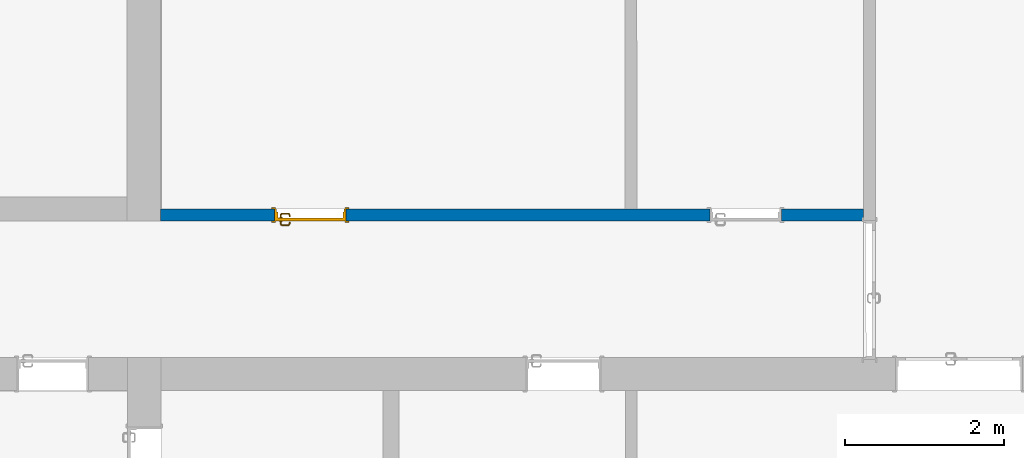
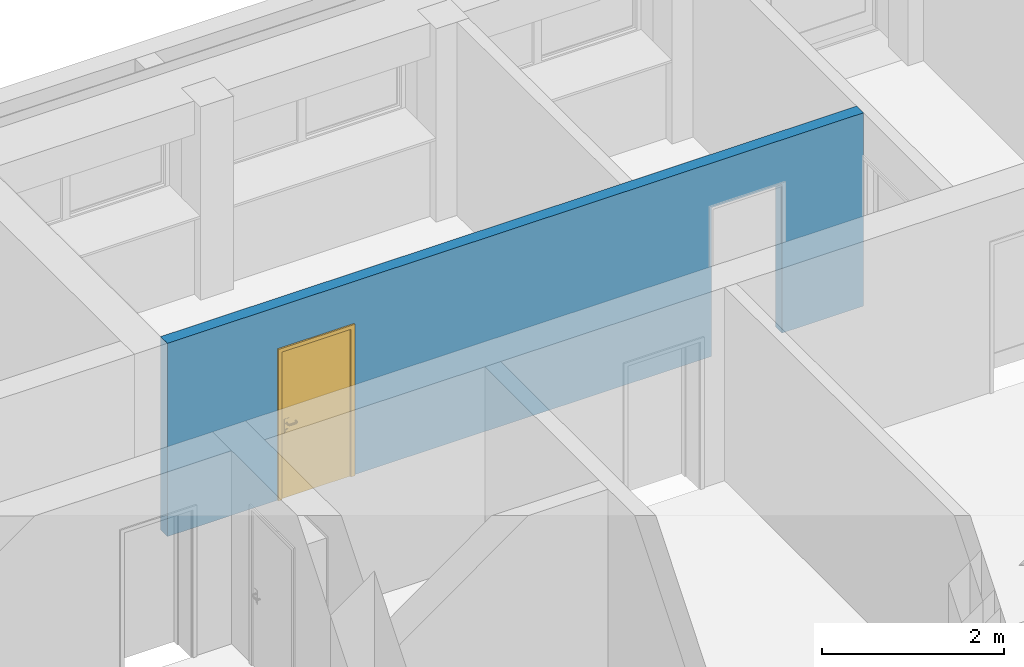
# One storey, part 19 of 127: 1 door, 1 wall, 2 openings.
"""IFC2X3 building model written with IfcOpenShell, lengths in millimetres."""

from ifc_helpers import new_model, entity, si_unit, converted_unit, derived_unit, money_unit, direction, frame, origin_with_axes, origin_2d_with_axis, place, context, subcontext, project, spatial, polyline, rectangle, outline, extrude, open_shell, faceted_brep, surface_model, source, transform, mapped, material, layer, layer_set, layer_usage, type_object, element, fill, save


model = new_model("IFC2X3")

# Units and contexts
model_context = context("Model", 3, precision=1e-05, world=origin_with_axes(), true_north=direction((0.0, 1.0)))
body_context = subcontext(model_context, "Body", "Model", "MODEL_VIEW")
ifc_project = project(units=[si_unit("LENGTHUNIT", "METRE", prefix="MILLI"), si_unit("AREAUNIT", "SQUARE_METRE"), si_unit("VOLUMEUNIT", "CUBIC_METRE"), converted_unit("PLANEANGLEUNIT", "DEGREE", entity("IfcPlaneAngleMeasure", 0.0174532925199), si_unit("PLANEANGLEUNIT", "RADIAN"), dimensions=[0, 0, 0, 0, 0, 0, 0]), si_unit("SOLIDANGLEUNIT", "STERADIAN"), money_unit("EUR"), converted_unit("TIMEUNIT", "Year", entity("IfcTimeMeasure", 31556926.0), si_unit("TIMEUNIT", "SECOND"), dimensions=[0, 0, 1, 0, 0, 0, 0]), si_unit("MASSUNIT", "GRAM", prefix="KILO"), si_unit("THERMODYNAMICTEMPERATUREUNIT", "DEGREE_CELSIUS"), si_unit("LUMINOUSINTENSITYUNIT", "LUMEN"), si_unit("ENERGYUNIT", "JOULE", prefix="MEGA"), derived_unit("THERMALCONDUCTANCEUNIT", [(si_unit("POWERUNIT", "WATT"), 1), (si_unit("LENGTHUNIT", "METRE"), -1), (si_unit("THERMODYNAMICTEMPERATUREUNIT", "KELVIN"), -1)]), derived_unit("SPECIFICHEATCAPACITYUNIT", [(si_unit("ENERGYUNIT", "JOULE"), 1), (si_unit("MASSUNIT", "GRAM", prefix="KILO"), -1), (si_unit("THERMODYNAMICTEMPERATUREUNIT", "KELVIN"), -1)]), derived_unit("MASSDENSITYUNIT", [(si_unit("MASSUNIT", "GRAM", prefix="KILO"), 1), (si_unit("VOLUMEUNIT", "CUBIC_METRE"), -1)])], contexts=[model_context])

# Site, building, storey
site_placement = place(None, origin_with_axes())
site = spatial("IfcSite", under=ifc_project, at=site_placement, Name="Site", CompositionType="ELEMENT")
building_placement = place(site_placement, origin_with_axes())
building = spatial("IfcBuilding", under=site, at=building_placement, Name="Building", CompositionType="ELEMENT")
storey_placement = place(building_placement, origin_with_axes())
storey = spatial("IfcBuildingStorey", under=building, at=storey_placement, Name="1 KORRUS", CompositionType="ELEMENT", Elevation=0.0)

# Wall, openings, door
ifc_material = material(Name="Kivi -Ol.Olev Konstruktsioon")
ifc_layer = layer(ifc_material, 150.0, ventilated="UNKNOWN")
ifc_layer_set = layer_set([ifc_layer], Name="ol.olev ss 150")
ifc_layer_usage = layer_usage(ifc_layer_set, "AXIS2", "POSITIVE", 0.0)
wall_type = type_object("IfcWallType", Name="SW - 036", PredefinedType="NOTDEFINED")
wall_placement = place(storey_placement, frame((87732.1709145, 42721.226444, 0.0), z_axis=(0.0, 0.0, 1.0), x_axis=(1.0, 0.0, 0.0)))
wall = element("IfcWallStandardCase", 1, at=wall_placement, inside=storey, type_object=wall_type, material=ifc_layer_usage, Name="ol.olev ss 150", context=body_context, shape_type="SweptSolid", body=[
    extrude(outline(polyline([(420.000265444, 0.0), (9275.21438642, 0.0), (9275.21438642, 150.0), (419.817612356, 150.0), (420.000265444, 0.0)])), origin_with_axes(), (0.0, 0.0, 1.0), 2600.0),
])
opening_1_placement = place(wall_placement, frame((2306.77435654, 0.0, 0.0), z_axis=(0.0, 0.0, 1.0), x_axis=(1.0, 0.0, 0.0)))
opening_1 = element("IfcOpeningElement", 2, at=opening_1_placement, cuts=wall, Name="Siseuks * Door 22", context=body_context, shape_type="SweptSolid", body=[
    extrude(rectangle(XDim=900.0, YDim=2000.0, at=origin_2d_with_axis()), frame((0.0, 150.0, 1000.0), z_axis=(0.0, 1.0, 0.0), x_axis=(1.0, 0.0, 0.0)), (0.0, 0.0, -1.0), 450.0),
    extrude(rectangle(XDim=974.0, YDim=2037.0, at=origin_2d_with_axis()), frame((0.0, 150.0, 1018.5), z_axis=(0.0, 1.0, 0.0), x_axis=(1.0, 0.0, 0.0)), (0.0, 0.0, 1.0), 150.0),
    extrude(rectangle(XDim=974.0, YDim=2037.0, at=origin_2d_with_axis()), frame((0.0, 0.0, 1018.5), z_axis=(0.0, -1.0, 0.0), x_axis=(1.0, 0.0, 0.0)), (0.0, 0.0, 1.0), 150.0),
])
opening_2_placement = place(wall_placement, frame((7790.00338246, 0.0, 0.0), z_axis=(0.0, 0.0, 1.0), x_axis=(1.0, 0.0, 0.0)))
element("IfcOpeningElement", 3, at=opening_2_placement, cuts=wall, Name="Siseuks * Door 22", context=body_context, shape_type="SweptSolid", body=[
    extrude(rectangle(XDim=900.0, YDim=2000.0, at=origin_2d_with_axis()), frame((0.0, 150.0, 1000.0), z_axis=(0.0, 1.0, 0.0), x_axis=(1.0, 0.0, 0.0)), (0.0, 0.0, -1.0), 450.0),
    extrude(rectangle(XDim=974.0, YDim=2037.0, at=origin_2d_with_axis()), frame((0.0, 150.0, 1018.5), z_axis=(0.0, 1.0, 0.0), x_axis=(1.0, 0.0, 0.0)), (0.0, 0.0, 1.0), 150.0),
    extrude(rectangle(XDim=974.0, YDim=2037.0, at=origin_2d_with_axis()), frame((0.0, 0.0, 1018.5), z_axis=(0.0, -1.0, 0.0), x_axis=(1.0, 0.0, 0.0)), (0.0, 0.0, 1.0), 150.0),
])
door_style = type_object("IfcDoorStyle", Name="SU-B132   900×2\xa0000", ConstructionType="NOTDEFINED", OperationType="SINGLE_SWING_LEFT", ParameterTakesPrecedence=False, Sizeable=False)
shared_shape = source(origin_with_axes(), body_context, "Body", "SurfaceModel", [
    faceted_brep([(450.0, -115.0, 0.0), (450.0, -150.0, 0.0), (425.0, -150.0, 0.0), (425.0, -115.0, 0.0), (450.0, -115.0, 2000.0), (450.0, -150.0, 2000.0), (425.0, -150.0, 1975.0), (425.0, -115.0, 1975.0)], [[[0, 1, 2, 3]], [[4, 5, 1, 0]], [[1, 5, 6, 2]], [[3, 2, 6, 7]], [[0, 3, 7, 4]], [[7, 6, 5, 4]]]),
    faceted_brep([(-450.0, -115.0, 2000.0), (-450.0, -150.0, 2000.0), (-425.0, -150.0, 1975.0), (-425.0, -115.0, 1975.0), (-450.0, -115.0, 0.0), (-450.0, -150.0, 0.0), (-425.0, -150.0, 0.0), (-425.0, -115.0, 0.0)], [[[0, 1, 2, 3]], [[4, 5, 1, 0]], [[1, 5, 6, 2]], [[3, 2, 6, 7]], [[0, 3, 7, 4]], [[7, 6, 5, 4]]]),
    faceted_brep([(425.0, -115.0, 1975.0), (425.0, -150.0, 1975.0), (-425.0, -150.0, 1975.0), (-425.0, -115.0, 1975.0), (450.0, -115.0, 2000.0), (450.0, -150.0, 2000.0), (-450.0, -150.0, 2000.0), (-450.0, -115.0, 2000.0)], [[[0, 1, 2, 3]], [[4, 5, 1, 0]], [[1, 5, 6, 2]], [[3, 2, 6, 7]], [[0, 3, 7, 4]], [[7, 6, 5, 4]]]),
    faceted_brep([(487.0, -169.0, 0.0), (437.0, -169.0, 0.0), (437.0, -150.0, 0.0), (487.0, -150.0, 0.0), (487.0, -169.0, 2037.0), (437.0, -169.0, 1987.0), (437.0, -150.0, 1987.0), (487.0, -150.0, 2037.0)], [[[0, 1, 2, 3]], [[0, 4, 5, 1]], [[1, 5, 6, 2]], [[3, 2, 6, 7]], [[4, 0, 3, 7]], [[5, 4, 7, 6]]]),
    faceted_brep([(-487.0, -169.0, 2037.0), (-437.0, -169.0, 1987.0), (-437.0, -150.0, 1987.0), (-487.0, -150.0, 2037.0), (-487.0, -169.0, 0.0), (-437.0, -169.0, 0.0), (-437.0, -150.0, 0.0), (-487.0, -150.0, 0.0)], [[[0, 1, 2, 3]], [[0, 4, 5, 1]], [[1, 5, 6, 2]], [[3, 2, 6, 7]], [[4, 0, 3, 7]], [[5, 4, 7, 6]]]),
    faceted_brep([(487.0, -169.0, 2037.0), (437.0, -169.0, 1987.0), (437.0, -150.0, 1987.0), (487.0, -150.0, 2037.0), (-487.0, -169.0, 2037.0), (-437.0, -169.0, 1987.0), (-437.0, -150.0, 1987.0), (-487.0, -150.0, 2037.0)], [[[0, 1, 2, 3]], [[0, 4, 5, 1]], [[1, 5, 6, 2]], [[3, 2, 6, 7]], [[4, 0, 3, 7]], [[5, 4, 7, 6]]]),
    faceted_brep([(487.0, 19.0, 0.0), (487.0, 0.0, 0.0), (437.0, 0.0, 0.0), (437.0, 19.0, 0.0), (487.0, 19.0, 2037.0), (487.0, 0.0, 2037.0), (437.0, 0.0, 1987.0), (437.0, 19.0, 1987.0)], [[[0, 1, 2, 3]], [[4, 5, 1, 0]], [[1, 5, 6, 2]], [[3, 2, 6, 7]], [[0, 3, 7, 4]], [[7, 6, 5, 4]]]),
    faceted_brep([(-487.0, 19.0, 2037.0), (-487.0, 0.0, 2037.0), (-437.0, 0.0, 1987.0), (-437.0, 19.0, 1987.0), (-487.0, 19.0, 0.0), (-487.0, 0.0, 0.0), (-437.0, 0.0, 0.0), (-437.0, 19.0, 0.0)], [[[0, 1, 2, 3]], [[4, 5, 1, 0]], [[1, 5, 6, 2]], [[3, 2, 6, 7]], [[0, 3, 7, 4]], [[7, 6, 5, 4]]]),
    faceted_brep([(487.0, 19.0, 2037.0), (487.0, 0.0, 2037.0), (437.0, 0.0, 1987.0), (437.0, 19.0, 1987.0), (-487.0, 19.0, 2037.0), (-487.0, 0.0, 2037.0), (-437.0, 0.0, 1987.0), (-437.0, 19.0, 1987.0)], [[[0, 1, 2, 3]], [[4, 5, 1, 0]], [[1, 5, 6, 2]], [[3, 2, 6, 7]], [[0, 3, 7, 4]], [[7, 6, 5, 4]]]),
    faceted_brep([(410.0, -40.0, 0.0), (410.0, -115.0, 0.0), (410.0, -115.0, 1960.0), (410.0, -40.0, 1960.0), (422.0, -40.0, 0.0), (422.0, 0.0, 0.0), (450.0, 0.0, 0.0), (450.0, -115.0, 0.0), (450.0, -115.0, 1960.0), (422.0, -40.0, 1960.0), (450.0, 0.0, 1960.0), (422.0, 0.0, 1960.0)], [[[0, 1, 2, 3]], [[4, 5, 6, 7, 1, 0]], [[1, 7, 8, 2]], [[9, 3, 2, 8, 10, 11]], [[9, 4, 0, 3]], [[11, 5, 4, 9]], [[11, 10, 6, 5]], [[6, 10, 8, 7]]]),
    faceted_brep([(-422.0, -40.0, 1960.0), (-422.0, 0.0, 1960.0), (-450.0, 0.0, 1960.0), (-450.0, -115.0, 1960.0), (-410.0, -115.0, 1960.0), (-410.0, -40.0, 1960.0), (-422.0, -40.0, 0.0), (-422.0, 0.0, 0.0), (-450.0, 0.0, 0.0), (-450.0, -115.0, 0.0), (-410.0, -115.0, 0.0), (-410.0, -40.0, 0.0)], [[[0, 1, 2, 3, 4, 5]], [[0, 6, 7, 1]], [[7, 8, 2, 1]], [[2, 8, 9, 3]], [[3, 9, 10, 4]], [[5, 4, 10, 11]], [[5, 11, 6, 0]], [[6, 11, 10, 9, 8, 7]]]),
    faceted_brep([(422.0, 0.0, 1972.0), (-422.0, 0.0, 1972.0), (-422.0, 0.0, 1960.0), (-450.0, 0.0, 1960.0), (-450.0, 0.0, 2000.0), (450.0, 0.0, 2000.0), (450.0, 0.0, 1960.0), (422.0, 0.0, 1960.0), (422.0, -40.0, 1972.0), (-422.0, -40.0, 1972.0), (-422.0, -40.0, 1960.0), (-410.0, -40.0, 1960.0), (-410.0, -115.0, 1960.0), (-450.0, -115.0, 1960.0), (-450.0, -115.0, 2000.0), (450.0, -115.0, 2000.0), (450.0, -115.0, 1960.0), (422.0, -40.0, 1960.0), (410.0, -115.0, 1960.0), (410.0, -40.0, 1960.0)], [[[0, 1, 2, 3, 4, 5, 6, 7]], [[0, 8, 9, 1]], [[1, 9, 10, 2]], [[10, 11, 12, 13, 3, 2]], [[4, 3, 13, 14]], [[5, 4, 14, 15]], [[6, 5, 15, 16]], [[17, 7, 6, 16, 18, 19]], [[7, 17, 8, 0]], [[10, 9, 8, 17, 19, 11]], [[19, 18, 12, 11]], [[12, 18, 16, 15, 14, 13]]]),
    faceted_brep([(400.5, -40.0, 1060.0), (343.5, -40.0, 1060.0), (343.5, -43.0, 1060.0), (400.5, -43.0, 1060.0), (400.5, -40.0, 870.0), (343.5, -40.0, 870.0), (343.5, -43.0, 870.0), (400.5, -43.0, 870.0)], [[[0, 1, 2, 3]], [[0, 4, 5, 1]], [[1, 5, 6, 2]], [[3, 2, 6, 7]], [[4, 0, 3, 7]], [[5, 4, 7, 6]]]),
    surface_model("IfcShellBasedSurfaceModel", [(362.0, -53.0, 1000.0), (364.928932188, -53.0, 992.928932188), (364.928932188, -72.303560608, 992.928932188), (362.0, -72.0150859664, 1000.0), (372.0, -53.0, 990.0), (372.0, -73.0, 990.0), (363.816790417, -77.8946748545, 992.928932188), (361.057796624, -76.751862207, 1000.0), (364.928932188, -53.0, 1007.07106781), (364.928932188, -72.303560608, 1007.07106781), (379.071067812, -53.0, 992.928932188), (379.071067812, -73.696439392, 992.928932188), (370.47759065, -80.6536686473, 990.0), (361.044179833, -82.0441798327, 992.928932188), (358.932537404, -79.9325374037, 1000.0), (363.816790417, -77.8946748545, 1007.07106781), (372.0, -53.0, 1010.0), (372.0, -73.0, 1010.0), (382.0, -53.0, 1000.0), (382.0, -73.9849140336, 1000.0), (377.138390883, -83.4126624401, 992.928932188), (366.142135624, -87.1421356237, 990.0), (356.894674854, -84.8167904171, 992.928932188), (355.751862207, -82.0577966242, 1000.0), (361.044179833, -82.0441798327, 1007.07106781), (370.47759065, -80.6536686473, 1010.0), (379.071067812, -53.0, 1007.07106781), (379.071067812, -73.696439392, 1007.07106781), (379.897384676, -84.5554750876, 1000.0), (371.240091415, -92.2400914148, 992.928932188), (359.653668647, -91.4775906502, 990.0), (351.303560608, -85.9289321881, 992.928932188), (351.015085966, -83.0, 1000.0), (356.894674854, -84.8167904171, 1007.07106781), (366.142135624, -87.1421356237, 1010.0), (377.138390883, -83.4126624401, 1007.07106781), (373.351733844, -94.3517338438, 1000.0), (362.41266244, -98.1383908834, 992.928932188), (352.0, -93.0, 990.0), (282.696439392, -85.9289321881, 992.928932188), (282.984914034, -83.0, 1000.0), (351.303560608, -85.9289321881, 1007.07106781), (359.653668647, -91.4775906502, 1010.0), (371.240091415, -92.2400914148, 1007.07106781), (363.555475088, -100.897384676, 1000.0), (352.696439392, -100.071067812, 992.928932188), (282.0, -93.0, 990.0), (277.105325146, -84.8167904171, 992.928932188), (278.248137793, -82.0577966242, 1000.0), (282.696439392, -85.9289321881, 1007.07106781), (352.0, -93.0, 1010.0), (362.41266244, -98.1383908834, 1007.07106781), (352.984914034, -103.0, 1000.0), (281.303560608, -100.071067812, 992.928932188), (274.346331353, -91.4775906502, 990.0), (272.955820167, -82.0441798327, 992.928932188), (275.067462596, -79.9325374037, 1000.0), (277.105325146, -84.8167904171, 1007.07106781), (282.0, -93.0, 1010.0), (352.696439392, -100.071067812, 1007.07106781), (281.015085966, -103.0, 1000.0), (271.58733756, -98.1383908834, 992.928932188), (267.857864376, -87.1421356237, 990.0), (270.183209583, -77.8946748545, 992.928932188), (272.942203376, -76.751862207, 1000.0), (272.955820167, -82.0441798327, 1007.07106781), (274.346331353, -91.4775906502, 1010.0), (281.303560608, -100.071067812, 1007.07106781), (270.444524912, -100.897384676, 1000.0), (262.759908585, -92.2400914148, 992.928932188), (263.52240935, -80.6536686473, 990.0), (269.071067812, -72.303560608, 992.928932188), (272.0, -72.0150859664, 1000.0), (270.183209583, -77.8946748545, 1007.07106781), (267.857864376, -87.1421356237, 1010.0), (271.58733756, -98.1383908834, 1007.07106781), (260.648266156, -94.3517338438, 1000.0), (256.861609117, -83.4126624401, 992.928932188), (262.0, -73.0, 990.0), (269.071067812, -53.0, 992.928932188), (272.0, -53.0, 1000.0), (269.071067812, -72.303560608, 1007.07106781), (263.52240935, -80.6536686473, 1010.0), (262.759908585, -92.2400914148, 1007.07106781), (254.102615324, -84.5554750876, 1000.0), (254.928932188, -73.696439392, 992.928932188), (262.0, -53.0, 990.0), (254.928932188, -53.0, 992.928932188), (252.0, -53.0, 1000.0), (254.928932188, -53.0, 1007.07106781), (262.0, -53.0, 1010.0), (269.071067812, -53.0, 1007.07106781), (262.0, -73.0, 1010.0), (256.861609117, -83.4126624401, 1007.07106781), (252.0, -73.9849140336, 1000.0), (254.928932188, -73.696439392, 1007.07106781)], [open_shell([[[0, 1, 2, 3]], [[1, 4, 5, 2]], [[3, 2, 6, 7]], [[8, 0, 3, 9]], [[4, 10, 11, 5]], [[2, 5, 12, 6]], [[7, 6, 13, 14]], [[9, 3, 7, 15]], [[16, 8, 9, 17]], [[10, 18, 19, 11]], [[5, 11, 20, 12]], [[6, 12, 21, 13]], [[14, 13, 22, 23]], [[15, 7, 14, 24]], [[17, 9, 15, 25]], [[26, 16, 17, 27]], [[18, 26, 27, 19]], [[11, 19, 28, 20]], [[12, 20, 29, 21]], [[13, 21, 30, 22]], [[23, 22, 31, 32]], [[24, 14, 23, 33]], [[25, 15, 24, 34]], [[27, 17, 25, 35]], [[19, 27, 35, 28]], [[20, 28, 36, 29]], [[21, 29, 37, 30]], [[22, 30, 38, 31]], [[32, 31, 39, 40]], [[33, 23, 32, 41]], [[34, 24, 33, 42]], [[35, 25, 34, 43]], [[28, 35, 43, 36]], [[29, 36, 44, 37]], [[30, 37, 45, 38]], [[31, 38, 46, 39]], [[40, 39, 47, 48]], [[41, 32, 40, 49]], [[42, 33, 41, 50]], [[43, 34, 42, 51]], [[36, 43, 51, 44]], [[37, 44, 52, 45]], [[38, 45, 53, 46]], [[39, 46, 54, 47]], [[48, 47, 55, 56]], [[49, 40, 48, 57]], [[50, 41, 49, 58]], [[51, 42, 50, 59]], [[44, 51, 59, 52]], [[45, 52, 60, 53]], [[46, 53, 61, 54]], [[47, 54, 62, 55]], [[56, 55, 63, 64]], [[57, 48, 56, 65]], [[58, 49, 57, 66]], [[59, 50, 58, 67]], [[52, 59, 67, 60]], [[53, 60, 68, 61]], [[54, 61, 69, 62]], [[55, 62, 70, 63]], [[64, 63, 71, 72]], [[65, 56, 64, 73]], [[66, 57, 65, 74]], [[67, 58, 66, 75]], [[60, 67, 75, 68]], [[61, 68, 76, 69]], [[62, 69, 77, 70]], [[63, 70, 78, 71]], [[72, 71, 79, 80]], [[73, 64, 72, 81]], [[74, 65, 73, 82]], [[75, 66, 74, 83]], [[68, 75, 83, 76]], [[69, 76, 84, 77]], [[70, 77, 85, 78]], [[71, 78, 86, 79]], [[80, 79, 86, 87, 88, 89, 90, 91]], [[81, 72, 80, 91]], [[82, 73, 81, 92]], [[83, 74, 82, 93]], [[76, 83, 93, 84]], [[77, 84, 94, 85]], [[78, 85, 87, 86]], [[85, 94, 88, 87]], [[94, 95, 89, 88]], [[95, 92, 90, 89]], [[92, 81, 91, 90]], [[93, 82, 92, 95]], [[84, 93, 95, 94]]])]),
    faceted_brep([(361.607695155, -53.0, 994.0), (360.0, -53.0, 1000.0), (359.0, -43.0, 1000.0), (360.741669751, -43.0, 993.5), (366.0, -53.0, 989.607695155), (372.0, -53.0, 988.0), (378.0, -53.0, 989.607695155), (382.392304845, -53.0, 994.0), (384.0, -53.0, 1000.0), (382.392304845, -53.0, 1006.0), (378.0, -53.0, 1010.39230485), (372.0, -53.0, 1012.0), (366.0, -53.0, 1010.39230485), (361.607695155, -53.0, 1006.0), (360.741669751, -43.0, 1006.5), (365.5, -43.0, 1011.25833025), (372.0, -43.0, 1013.0), (378.5, -43.0, 1011.25833025), (383.258330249, -43.0, 1006.5), (385.0, -43.0, 1000.0), (383.258330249, -43.0, 993.5), (378.5, -43.0, 988.741669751), (372.0, -43.0, 987.0), (365.5, -43.0, 988.741669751)], [[[0, 1, 2, 3]], [[1, 0, 4, 5, 6, 7, 8, 9, 10, 11, 12, 13]], [[1, 13, 14, 2]], [[2, 14, 15, 16, 17, 18, 19, 20, 21, 22, 23, 3]], [[4, 0, 3, 23]], [[5, 4, 23, 22]], [[6, 5, 22, 21]], [[7, 6, 21, 20]], [[8, 7, 20, 19]], [[9, 8, 19, 18]], [[10, 9, 18, 17]], [[11, 10, 17, 16]], [[12, 11, 16, 15]], [[13, 12, 15, 14]]]),
    faceted_brep([(354.679491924, -47.0, 895.0), (352.0, -47.0, 905.0), (350.0, -43.0, 905.0), (352.947441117, -43.0, 894.0), (362.0, -47.0, 887.679491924), (372.0, -47.0, 885.0), (382.0, -47.0, 887.679491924), (389.320508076, -47.0, 895.0), (392.0, -47.0, 905.0), (389.320508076, -47.0, 915.0), (382.0, -47.0, 922.320508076), (372.0, -47.0, 925.0), (362.0, -47.0, 922.320508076), (354.679491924, -47.0, 915.0), (352.947441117, -43.0, 916.0), (361.0, -43.0, 924.052558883), (372.0, -43.0, 927.0), (383.0, -43.0, 924.052558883), (391.052558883, -43.0, 916.0), (394.0, -43.0, 905.0), (391.052558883, -43.0, 894.0), (383.0, -43.0, 885.947441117), (372.0, -43.0, 883.0), (361.0, -43.0, 885.947441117)], [[[0, 1, 2, 3]], [[1, 0, 4, 5, 6, 7, 8, 9, 10, 11, 12, 13]], [[1, 13, 14, 2]], [[2, 14, 15, 16, 17, 18, 19, 20, 21, 22, 23, 3]], [[4, 0, 3, 23]], [[5, 4, 23, 22]], [[6, 5, 22, 21]], [[7, 6, 21, 20]], [[8, 7, 20, 19]], [[9, 8, 19, 18]], [[10, 9, 18, 17]], [[11, 10, 17, 16]], [[12, 11, 16, 15]], [[13, 12, 15, 14]]]),
    faceted_brep([(367.050252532, -49.0, 909.050252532), (365.0, -49.0, 914.0), (364.0, -47.0, 914.0), (366.343145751, -47.0, 908.343145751), (372.0, -49.0, 907.0), (376.949747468, -49.0, 909.050252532), (379.0, -49.0, 914.0), (376.949747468, -49.0, 918.949747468), (372.0, -49.0, 921.0), (367.050252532, -49.0, 918.949747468), (366.343145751, -47.0, 919.656854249), (372.0, -47.0, 922.0), (377.656854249, -47.0, 919.656854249), (380.0, -47.0, 914.0), (377.656854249, -47.0, 908.343145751), (372.0, -47.0, 906.0)], [[[0, 1, 2, 3]], [[1, 0, 4, 5, 6, 7, 8, 9]], [[1, 9, 10, 2]], [[2, 10, 11, 12, 13, 14, 15, 3]], [[4, 0, 3, 15]], [[5, 4, 15, 14]], [[6, 5, 14, 13]], [[7, 6, 13, 12]], [[8, 7, 12, 11]], [[9, 8, 11, 10]]]),
    faceted_brep([(400.5, 0.0, 1060.0), (400.5, 3.0, 1060.0), (343.5, 3.0, 1060.0), (343.5, 0.0, 1060.0), (400.5, 0.0, 870.0), (400.5, 3.0, 870.0), (343.5, 3.0, 870.0), (343.5, 0.0, 870.0)], [[[0, 1, 2, 3]], [[4, 5, 1, 0]], [[1, 5, 6, 2]], [[3, 2, 6, 7]], [[0, 3, 7, 4]], [[7, 6, 5, 4]]]),
    surface_model("IfcShellBasedSurfaceModel", [(362.0, 13.0, 1000.0), (362.0, 32.0150859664, 1000.0), (364.928932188, 32.303560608, 992.928932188), (364.928932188, 13.0, 992.928932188), (364.928932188, 13.0, 1007.07106781), (364.928932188, 32.303560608, 1007.07106781), (361.057796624, 36.751862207, 1000.0), (363.816790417, 37.8946748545, 992.928932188), (372.0, 33.0, 990.0), (372.0, 13.0, 990.0), (372.0, 13.0, 1010.0), (372.0, 33.0, 1010.0), (363.816790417, 37.8946748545, 1007.07106781), (358.932537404, 39.9325374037, 1000.0), (361.044179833, 42.0441798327, 992.928932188), (370.47759065, 40.6536686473, 990.0), (379.071067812, 33.696439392, 992.928932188), (379.071067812, 13.0, 992.928932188), (379.071067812, 13.0, 1007.07106781), (379.071067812, 33.696439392, 1007.07106781), (370.47759065, 40.6536686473, 1010.0), (361.044179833, 42.0441798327, 1007.07106781), (355.751862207, 42.0577966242, 1000.0), (356.894674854, 44.8167904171, 992.928932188), (366.142135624, 47.1421356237, 990.0), (377.138390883, 43.4126624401, 992.928932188), (382.0, 33.9849140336, 1000.0), (382.0, 13.0, 1000.0), (377.138390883, 43.4126624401, 1007.07106781), (366.142135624, 47.1421356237, 1010.0), (356.894674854, 44.8167904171, 1007.07106781), (351.015085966, 43.0, 1000.0), (351.303560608, 45.9289321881, 992.928932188), (359.653668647, 51.4775906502, 990.0), (371.240091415, 52.2400914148, 992.928932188), (379.897384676, 44.5554750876, 1000.0), (371.240091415, 52.2400914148, 1007.07106781), (359.653668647, 51.4775906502, 1010.0), (351.303560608, 45.9289321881, 1007.07106781), (282.984914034, 43.0, 1000.0), (282.696439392, 45.9289321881, 992.928932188), (352.0, 53.0, 990.0), (362.41266244, 58.1383908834, 992.928932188), (373.351733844, 54.3517338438, 1000.0), (362.41266244, 58.1383908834, 1007.07106781), (352.0, 53.0, 1010.0), (282.696439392, 45.9289321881, 1007.07106781), (278.248137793, 42.0577966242, 1000.0), (277.105325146, 44.8167904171, 992.928932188), (282.0, 53.0, 990.0), (352.696439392, 60.0710678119, 992.928932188), (363.555475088, 60.8973846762, 1000.0), (352.696439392, 60.0710678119, 1007.07106781), (282.0, 53.0, 1010.0), (277.105325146, 44.8167904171, 1007.07106781), (275.067462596, 39.9325374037, 1000.0), (272.955820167, 42.0441798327, 992.928932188), (274.346331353, 51.4775906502, 990.0), (281.303560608, 60.0710678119, 992.928932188), (352.984914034, 63.0, 1000.0), (281.303560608, 60.0710678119, 1007.07106781), (274.346331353, 51.4775906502, 1010.0), (272.955820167, 42.0441798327, 1007.07106781), (272.942203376, 36.751862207, 1000.0), (270.183209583, 37.8946748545, 992.928932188), (267.857864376, 47.1421356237, 990.0), (271.58733756, 58.1383908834, 992.928932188), (281.015085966, 63.0, 1000.0), (271.58733756, 58.1383908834, 1007.07106781), (267.857864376, 47.1421356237, 1010.0), (270.183209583, 37.8946748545, 1007.07106781), (272.0, 32.0150859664, 1000.0), (269.071067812, 32.303560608, 992.928932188), (263.52240935, 40.6536686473, 990.0), (262.759908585, 52.2400914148, 992.928932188), (270.444524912, 60.8973846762, 1000.0), (262.759908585, 52.2400914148, 1007.07106781), (263.52240935, 40.6536686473, 1010.0), (269.071067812, 32.303560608, 1007.07106781), (272.0, 13.0, 1000.0), (269.071067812, 13.0, 992.928932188), (262.0, 33.0, 990.0), (256.861609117, 43.4126624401, 992.928932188), (260.648266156, 54.3517338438, 1000.0), (256.861609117, 43.4126624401, 1007.07106781), (262.0, 33.0, 1010.0), (269.071067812, 13.0, 1007.07106781), (262.0, 13.0, 1010.0), (254.928932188, 13.0, 1007.07106781), (252.0, 13.0, 1000.0), (254.928932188, 13.0, 992.928932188), (262.0, 13.0, 990.0), (254.928932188, 33.696439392, 992.928932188), (254.102615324, 44.5554750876, 1000.0), (254.928932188, 33.696439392, 1007.07106781), (252.0, 33.9849140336, 1000.0)], [open_shell([[[0, 1, 2, 3]], [[4, 5, 1, 0]], [[1, 6, 7, 2]], [[3, 2, 8, 9]], [[10, 11, 5, 4]], [[5, 12, 6, 1]], [[6, 13, 14, 7]], [[2, 7, 15, 8]], [[9, 8, 16, 17]], [[18, 19, 11, 10]], [[11, 20, 12, 5]], [[12, 21, 13, 6]], [[13, 22, 23, 14]], [[7, 14, 24, 15]], [[8, 15, 25, 16]], [[17, 16, 26, 27]], [[27, 26, 19, 18]], [[19, 28, 20, 11]], [[20, 29, 21, 12]], [[21, 30, 22, 13]], [[22, 31, 32, 23]], [[14, 23, 33, 24]], [[15, 24, 34, 25]], [[16, 25, 35, 26]], [[26, 35, 28, 19]], [[28, 36, 29, 20]], [[29, 37, 30, 21]], [[30, 38, 31, 22]], [[31, 39, 40, 32]], [[23, 32, 41, 33]], [[24, 33, 42, 34]], [[25, 34, 43, 35]], [[35, 43, 36, 28]], [[36, 44, 37, 29]], [[37, 45, 38, 30]], [[38, 46, 39, 31]], [[39, 47, 48, 40]], [[32, 40, 49, 41]], [[33, 41, 50, 42]], [[34, 42, 51, 43]], [[43, 51, 44, 36]], [[44, 52, 45, 37]], [[45, 53, 46, 38]], [[46, 54, 47, 39]], [[47, 55, 56, 48]], [[40, 48, 57, 49]], [[41, 49, 58, 50]], [[42, 50, 59, 51]], [[51, 59, 52, 44]], [[52, 60, 53, 45]], [[53, 61, 54, 46]], [[54, 62, 55, 47]], [[55, 63, 64, 56]], [[48, 56, 65, 57]], [[49, 57, 66, 58]], [[50, 58, 67, 59]], [[59, 67, 60, 52]], [[60, 68, 61, 53]], [[61, 69, 62, 54]], [[62, 70, 63, 55]], [[63, 71, 72, 64]], [[56, 64, 73, 65]], [[57, 65, 74, 66]], [[58, 66, 75, 67]], [[67, 75, 68, 60]], [[68, 76, 69, 61]], [[69, 77, 70, 62]], [[70, 78, 71, 63]], [[71, 79, 80, 72]], [[64, 72, 81, 73]], [[65, 73, 82, 74]], [[66, 74, 83, 75]], [[75, 83, 76, 68]], [[76, 84, 77, 69]], [[77, 85, 78, 70]], [[78, 86, 79, 71]], [[79, 86, 87, 88, 89, 90, 91, 80]], [[72, 80, 91, 81]], [[73, 81, 92, 82]], [[74, 82, 93, 83]], [[83, 93, 84, 76]], [[84, 94, 85, 77]], [[85, 87, 86, 78]], [[94, 88, 87, 85]], [[95, 89, 88, 94]], [[92, 90, 89, 95]], [[81, 91, 90, 92]], [[82, 92, 95, 93]], [[93, 95, 94, 84]]])]),
    faceted_brep([(361.607695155, 13.0, 994.0), (360.741669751, 3.0, 993.5), (359.0, 3.0, 1000.0), (360.0, 13.0, 1000.0), (366.0, 13.0, 989.607695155), (365.5, 3.0, 988.741669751), (372.0, 3.0, 987.0), (378.5, 3.0, 988.741669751), (383.258330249, 3.0, 993.5), (385.0, 3.0, 1000.0), (383.258330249, 3.0, 1006.5), (378.5, 3.0, 1011.25833025), (372.0, 3.0, 1013.0), (365.5, 3.0, 1011.25833025), (360.741669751, 3.0, 1006.5), (361.607695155, 13.0, 1006.0), (366.0, 13.0, 1010.39230485), (372.0, 13.0, 1012.0), (378.0, 13.0, 1010.39230485), (382.392304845, 13.0, 1006.0), (384.0, 13.0, 1000.0), (382.392304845, 13.0, 994.0), (378.0, 13.0, 989.607695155), (372.0, 13.0, 988.0)], [[[0, 1, 2, 3]], [[4, 5, 1, 0]], [[2, 1, 5, 6, 7, 8, 9, 10, 11, 12, 13, 14]], [[3, 2, 14, 15]], [[3, 15, 16, 17, 18, 19, 20, 21, 22, 23, 4, 0]], [[23, 6, 5, 4]], [[22, 7, 6, 23]], [[21, 8, 7, 22]], [[20, 9, 8, 21]], [[19, 10, 9, 20]], [[18, 11, 10, 19]], [[17, 12, 11, 18]], [[16, 13, 12, 17]], [[15, 14, 13, 16]]]),
    faceted_brep([(354.679491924, 7.0, 895.0), (352.947441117, 3.0, 894.0), (350.0, 3.0, 905.0), (352.0, 7.0, 905.0), (362.0, 7.0, 887.679491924), (361.0, 3.0, 885.947441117), (372.0, 3.0, 883.0), (383.0, 3.0, 885.947441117), (391.052558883, 3.0, 894.0), (394.0, 3.0, 905.0), (391.052558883, 3.0, 916.0), (383.0, 3.0, 924.052558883), (372.0, 3.0, 927.0), (361.0, 3.0, 924.052558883), (352.947441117, 3.0, 916.0), (354.679491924, 7.0, 915.0), (362.0, 7.0, 922.320508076), (372.0, 7.0, 925.0), (382.0, 7.0, 922.320508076), (389.320508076, 7.0, 915.0), (392.0, 7.0, 905.0), (389.320508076, 7.0, 895.0), (382.0, 7.0, 887.679491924), (372.0, 7.0, 885.0)], [[[0, 1, 2, 3]], [[4, 5, 1, 0]], [[2, 1, 5, 6, 7, 8, 9, 10, 11, 12, 13, 14]], [[3, 2, 14, 15]], [[3, 15, 16, 17, 18, 19, 20, 21, 22, 23, 4, 0]], [[23, 6, 5, 4]], [[22, 7, 6, 23]], [[21, 8, 7, 22]], [[20, 9, 8, 21]], [[19, 10, 9, 20]], [[18, 11, 10, 19]], [[17, 12, 11, 18]], [[16, 13, 12, 17]], [[15, 14, 13, 16]]]),
    faceted_brep([(367.050252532, 9.0, 909.050252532), (366.343145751, 7.0, 908.343145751), (364.0, 7.0, 914.0), (365.0, 9.0, 914.0), (372.0, 9.0, 907.0), (372.0, 7.0, 906.0), (377.656854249, 7.0, 908.343145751), (380.0, 7.0, 914.0), (377.656854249, 7.0, 919.656854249), (372.0, 7.0, 922.0), (366.343145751, 7.0, 919.656854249), (367.050252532, 9.0, 918.949747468), (372.0, 9.0, 921.0), (376.949747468, 9.0, 918.949747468), (379.0, 9.0, 914.0), (376.949747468, 9.0, 909.050252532)], [[[0, 1, 2, 3]], [[4, 5, 1, 0]], [[2, 1, 5, 6, 7, 8, 9, 10]], [[3, 2, 10, 11]], [[3, 11, 12, 13, 14, 15, 4, 0]], [[15, 6, 5, 4]], [[14, 7, 6, 15]], [[13, 8, 7, 14]], [[12, 9, 8, 13]], [[11, 10, 9, 12]]]),
    faceted_brep([(-422.0, 0.0, 0.0), (422.0, 0.0, 0.0), (422.0, -40.0, 0.0), (-422.0, -40.0, 0.0), (-422.0, 0.0, 1972.0), (422.0, 0.0, 1972.0), (422.0, -40.0, 1972.0), (-422.0, -40.0, 1972.0)], [[[0, 1, 2, 3]], [[0, 4, 5, 1]], [[1, 5, 6, 2]], [[3, 2, 6, 7]], [[4, 0, 3, 7]], [[5, 4, 7, 6]]]),
])
door_placement = place(opening_1_placement, frame((450.0, 0.0, 0.0), z_axis=(0.0, 0.0, 1.0), x_axis=(-1.0, 0.0, 0.0)))
door = element("IfcDoor", 4, at=door_placement, inside=storey, type_object=door_style, Name="Siseuks * Door 22", OverallHeight=2000.0, OverallWidth=900.0, context=body_context, shape_type="MappedRepresentation", body=[
    mapped(shared_shape, transform((450.0, 0.0, 0.0))),
])
fill(opening_1, door)

save(model, "model.ifc")
